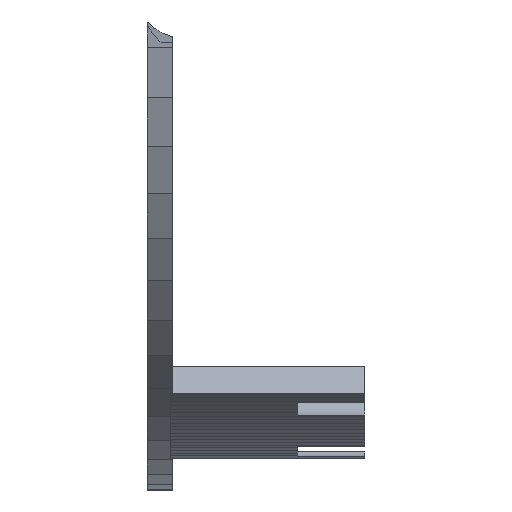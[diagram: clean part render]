
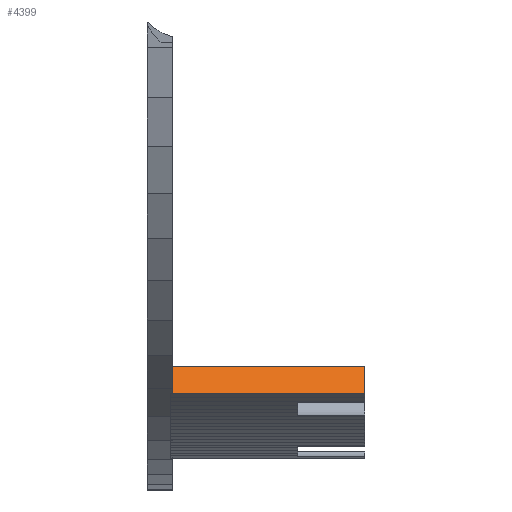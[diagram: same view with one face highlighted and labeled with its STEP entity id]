
A CAD part, front view. The second image highlights one B-rep face of the part: STEP entity #4399.
In plain terms, the highlighted planar face has unit normal (0, -0.819, 0.574).
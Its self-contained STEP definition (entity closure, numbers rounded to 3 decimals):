
#72 = PLANE('',#73);
#73 = AXIS2_PLACEMENT_3D('',#74,#75,#76);
#74 = CARTESIAN_POINT('',(40.5,-59.387,-74.279));
#75 = DIRECTION('',(1.,0.,0.));
#76 = DIRECTION('',(-0.,0.,1.));
#506 = PLANE('',#507);
#507 = AXIS2_PLACEMENT_3D('',#508,#509,#510);
#508 = CARTESIAN_POINT('',(39.,-68.702,-79.807));
#509 = DIRECTION('',(-0.,0.548,0.836));
#510 = DIRECTION('',(0.,0.836,-0.548));
#1661 = VERTEX_POINT('',#1662);
#1662 = CARTESIAN_POINT('',(40.5,-68.235,-80.113));
#1683 = EDGE_CURVE('',#1661,#1684,#1686,.T.);
#1684 = VERTEX_POINT('',#1685);
#1685 = CARTESIAN_POINT('',(40.5,-67.1,-78.493));
#1686 = SURFACE_CURVE('',#1687,(#1691,#1697),.PCURVE_S1.);
#1687 = LINE('',#1688,#1689);
#1688 = CARTESIAN_POINT('',(40.5,-64.841,-75.267));
#1689 = VECTOR('',#1690,1.);
#1690 = DIRECTION('',(-0.,0.574,0.819));
#1691 = PCURVE('',#72,#1692);
#1692 = DEFINITIONAL_REPRESENTATION('',(#1693),#1696);
#1693 = B_SPLINE_CURVE_WITH_KNOTS('',1,(#1694,#1695),.UNSPECIFIED.,.F.,
  .F.,(2,2),(-5.938,-3.938),.PIECEWISE_BEZIER_KNOTS.);
#1694 = CARTESIAN_POINT('',(-5.852,8.86));
#1695 = CARTESIAN_POINT('',(-4.214,7.713));
#1696 = ( GEOMETRIC_REPRESENTATION_CONTEXT(2) 
PARAMETRIC_REPRESENTATION_CONTEXT() REPRESENTATION_CONTEXT('2D SPACE',''
  ) );
#1697 = PCURVE('',#1698,#1703);
#1698 = PLANE('',#1699);
#1699 = AXIS2_PLACEMENT_3D('',#1700,#1701,#1702);
#1700 = CARTESIAN_POINT('',(40.4,-67.1,-78.493));
#1701 = DIRECTION('',(0.,0.819,-0.574));
#1702 = DIRECTION('',(0.,-0.574,-0.819));
#1703 = DEFINITIONAL_REPRESENTATION('',(#1704),#1707);
#1704 = B_SPLINE_CURVE_WITH_KNOTS('',1,(#1705,#1706),.UNSPECIFIED.,.F.,
  .F.,(2,2),(-5.938,-3.938),.PIECEWISE_BEZIER_KNOTS.);
#1705 = CARTESIAN_POINT('',(2.,-0.1));
#1706 = CARTESIAN_POINT('',(0.,-0.1));
#1707 = ( GEOMETRIC_REPRESENTATION_CONTEXT(2) 
PARAMETRIC_REPRESENTATION_CONTEXT() REPRESENTATION_CONTEXT('2D SPACE',''
  ) );
#1724 = PLANE('',#1725);
#1725 = AXIS2_PLACEMENT_3D('',#1726,#1727,#1728);
#1726 = CARTESIAN_POINT('',(40.4,-66.777,-78.716));
#1727 = DIRECTION('',(0.,-0.568,-0.823));
#1728 = DIRECTION('',(0.,-0.823,0.568));
#3482 = EDGE_CURVE('',#1661,#3483,#3485,.T.);
#3483 = VERTEX_POINT('',#3484);
#3484 = CARTESIAN_POINT('',(40.4,-68.235,-80.113));
#3485 = SURFACE_CURVE('',#3486,(#3490,#3496),.PCURVE_S1.);
#3486 = LINE('',#3487,#3488);
#3487 = CARTESIAN_POINT('',(39.7,-68.235,-80.113));
#3488 = VECTOR('',#3489,1.);
#3489 = DIRECTION('',(-1.,0.,-0.));
#3490 = PCURVE('',#506,#3491);
#3491 = DEFINITIONAL_REPRESENTATION('',(#3492),#3495);
#3492 = B_SPLINE_CURVE_WITH_KNOTS('',1,(#3493,#3494),.UNSPECIFIED.,.F.,
  .F.,(2,2),(-0.8,-0.7),.PIECEWISE_BEZIER_KNOTS.);
#3493 = CARTESIAN_POINT('',(0.559,-1.5));
#3494 = CARTESIAN_POINT('',(0.559,-1.4));
#3495 = ( GEOMETRIC_REPRESENTATION_CONTEXT(2) 
PARAMETRIC_REPRESENTATION_CONTEXT() REPRESENTATION_CONTEXT('2D SPACE',''
  ) );
#3496 = PCURVE('',#1698,#3497);
#3497 = DEFINITIONAL_REPRESENTATION('',(#3498),#3501);
#3498 = B_SPLINE_CURVE_WITH_KNOTS('',1,(#3499,#3500),.UNSPECIFIED.,.F.,
  .F.,(2,2),(-0.8,-0.7),.PIECEWISE_BEZIER_KNOTS.);
#3499 = CARTESIAN_POINT('',(1.978,-0.1));
#3500 = CARTESIAN_POINT('',(1.978,0.));
#3501 = ( GEOMETRIC_REPRESENTATION_CONTEXT(2) 
PARAMETRIC_REPRESENTATION_CONTEXT() REPRESENTATION_CONTEXT('2D SPACE',''
  ) );
#3518 = PLANE('',#3519);
#3519 = AXIS2_PLACEMENT_3D('',#3520,#3521,#3522);
#3520 = CARTESIAN_POINT('',(40.4,-64.162,-81.329));
#3521 = DIRECTION('',(1.,0.,0.));
#3522 = DIRECTION('',(-0.,0.,1.));
#4399 = ADVANCED_FACE('',(#4400),#1698,.F.);
#4400 = FACE_BOUND('',#4401,.F.);
#4401 = EDGE_LOOP('',(#4402,#4403,#4426,#4454,#4482,#4503));
#4402 = ORIENTED_EDGE('',*,*,#1683,.T.);
#4403 = ORIENTED_EDGE('',*,*,#4404,.T.);
#4404 = EDGE_CURVE('',#1684,#4405,#4407,.T.);
#4405 = VERTEX_POINT('',#4406);
#4406 = CARTESIAN_POINT('',(52.,-67.1,-78.493));
#4407 = SURFACE_CURVE('',#4408,(#4412,#4419),.PCURVE_S1.);
#4408 = LINE('',#4409,#4410);
#4409 = CARTESIAN_POINT('',(40.4,-67.1,-78.493));
#4410 = VECTOR('',#4411,1.);
#4411 = DIRECTION('',(1.,0.,0.));
#4412 = PCURVE('',#1698,#4413);
#4413 = DEFINITIONAL_REPRESENTATION('',(#4414),#4418);
#4414 = LINE('',#4415,#4416);
#4415 = CARTESIAN_POINT('',(0.,0.));
#4416 = VECTOR('',#4417,1.);
#4417 = DIRECTION('',(0.,-1.));
#4418 = ( GEOMETRIC_REPRESENTATION_CONTEXT(2) 
PARAMETRIC_REPRESENTATION_CONTEXT() REPRESENTATION_CONTEXT('2D SPACE',''
  ) );
#4419 = PCURVE('',#1724,#4420);
#4420 = DEFINITIONAL_REPRESENTATION('',(#4421),#4425);
#4421 = LINE('',#4422,#4423);
#4422 = CARTESIAN_POINT('',(0.393,0.));
#4423 = VECTOR('',#4424,1.);
#4424 = DIRECTION('',(0.,-1.));
#4425 = ( GEOMETRIC_REPRESENTATION_CONTEXT(2) 
PARAMETRIC_REPRESENTATION_CONTEXT() REPRESENTATION_CONTEXT('2D SPACE',''
  ) );
#4426 = ORIENTED_EDGE('',*,*,#4427,.T.);
#4427 = EDGE_CURVE('',#4405,#4428,#4430,.T.);
#4428 = VERTEX_POINT('',#4429);
#4429 = CARTESIAN_POINT('',(52.,-68.247,-80.131));
#4430 = SURFACE_CURVE('',#4431,(#4435,#4442),.PCURVE_S1.);
#4431 = LINE('',#4432,#4433);
#4432 = CARTESIAN_POINT('',(52.,-67.1,-78.493));
#4433 = VECTOR('',#4434,1.);
#4434 = DIRECTION('',(0.,-0.574,-0.819));
#4435 = PCURVE('',#1698,#4436);
#4436 = DEFINITIONAL_REPRESENTATION('',(#4437),#4441);
#4437 = LINE('',#4438,#4439);
#4438 = CARTESIAN_POINT('',(0.,-11.6));
#4439 = VECTOR('',#4440,1.);
#4440 = DIRECTION('',(1.,0.));
#4441 = ( GEOMETRIC_REPRESENTATION_CONTEXT(2) 
PARAMETRIC_REPRESENTATION_CONTEXT() REPRESENTATION_CONTEXT('2D SPACE',''
  ) );
#4442 = PCURVE('',#4443,#4448);
#4443 = PLANE('',#4444);
#4444 = AXIS2_PLACEMENT_3D('',#4445,#4446,#4447);
#4445 = CARTESIAN_POINT('',(52.,-64.162,-81.329));
#4446 = DIRECTION('',(1.,0.,0.));
#4447 = DIRECTION('',(-0.,0.,1.));
#4448 = DEFINITIONAL_REPRESENTATION('',(#4449),#4453);
#4449 = LINE('',#4450,#4451);
#4450 = CARTESIAN_POINT('',(2.836,2.938));
#4451 = VECTOR('',#4452,1.);
#4452 = DIRECTION('',(-0.819,0.574));
#4453 = ( GEOMETRIC_REPRESENTATION_CONTEXT(2) 
PARAMETRIC_REPRESENTATION_CONTEXT() REPRESENTATION_CONTEXT('2D SPACE',''
  ) );
#4454 = ORIENTED_EDGE('',*,*,#4455,.F.);
#4455 = EDGE_CURVE('',#4456,#4428,#4458,.T.);
#4456 = VERTEX_POINT('',#4457);
#4457 = CARTESIAN_POINT('',(40.4,-68.247,-80.131));
#4458 = SURFACE_CURVE('',#4459,(#4463,#4470),.PCURVE_S1.);
#4459 = LINE('',#4460,#4461);
#4460 = CARTESIAN_POINT('',(40.4,-68.247,-80.131));
#4461 = VECTOR('',#4462,1.);
#4462 = DIRECTION('',(1.,0.,0.));
#4463 = PCURVE('',#1698,#4464);
#4464 = DEFINITIONAL_REPRESENTATION('',(#4465),#4469);
#4465 = LINE('',#4466,#4467);
#4466 = CARTESIAN_POINT('',(2.,0.));
#4467 = VECTOR('',#4468,1.);
#4468 = DIRECTION('',(0.,-1.));
#4469 = ( GEOMETRIC_REPRESENTATION_CONTEXT(2) 
PARAMETRIC_REPRESENTATION_CONTEXT() REPRESENTATION_CONTEXT('2D SPACE',''
  ) );
#4470 = PCURVE('',#4471,#4476);
#4471 = PLANE('',#4472);
#4472 = AXIS2_PLACEMENT_3D('',#4473,#4474,#4475);
#4473 = CARTESIAN_POINT('',(40.4,-68.247,-80.131));
#4474 = DIRECTION('',(-0.,0.568,0.823));
#4475 = DIRECTION('',(0.,0.823,-0.568));
#4476 = DEFINITIONAL_REPRESENTATION('',(#4477),#4481);
#4477 = LINE('',#4478,#4479);
#4478 = CARTESIAN_POINT('',(0.,0.));
#4479 = VECTOR('',#4480,1.);
#4480 = DIRECTION('',(0.,-1.));
#4481 = ( GEOMETRIC_REPRESENTATION_CONTEXT(2) 
PARAMETRIC_REPRESENTATION_CONTEXT() REPRESENTATION_CONTEXT('2D SPACE',''
  ) );
#4482 = ORIENTED_EDGE('',*,*,#4483,.F.);
#4483 = EDGE_CURVE('',#3483,#4456,#4484,.T.);
#4484 = SURFACE_CURVE('',#4485,(#4489,#4496),.PCURVE_S1.);
#4485 = LINE('',#4486,#4487);
#4486 = CARTESIAN_POINT('',(40.4,-67.1,-78.493));
#4487 = VECTOR('',#4488,1.);
#4488 = DIRECTION('',(0.,-0.574,-0.819));
#4489 = PCURVE('',#1698,#4490);
#4490 = DEFINITIONAL_REPRESENTATION('',(#4491),#4495);
#4491 = LINE('',#4492,#4493);
#4492 = CARTESIAN_POINT('',(0.,0.));
#4493 = VECTOR('',#4494,1.);
#4494 = DIRECTION('',(1.,0.));
#4495 = ( GEOMETRIC_REPRESENTATION_CONTEXT(2) 
PARAMETRIC_REPRESENTATION_CONTEXT() REPRESENTATION_CONTEXT('2D SPACE',''
  ) );
#4496 = PCURVE('',#3518,#4497);
#4497 = DEFINITIONAL_REPRESENTATION('',(#4498),#4502);
#4498 = LINE('',#4499,#4500);
#4499 = CARTESIAN_POINT('',(2.836,2.938));
#4500 = VECTOR('',#4501,1.);
#4501 = DIRECTION('',(-0.819,0.574));
#4502 = ( GEOMETRIC_REPRESENTATION_CONTEXT(2) 
PARAMETRIC_REPRESENTATION_CONTEXT() REPRESENTATION_CONTEXT('2D SPACE',''
  ) );
#4503 = ORIENTED_EDGE('',*,*,#3482,.F.);
